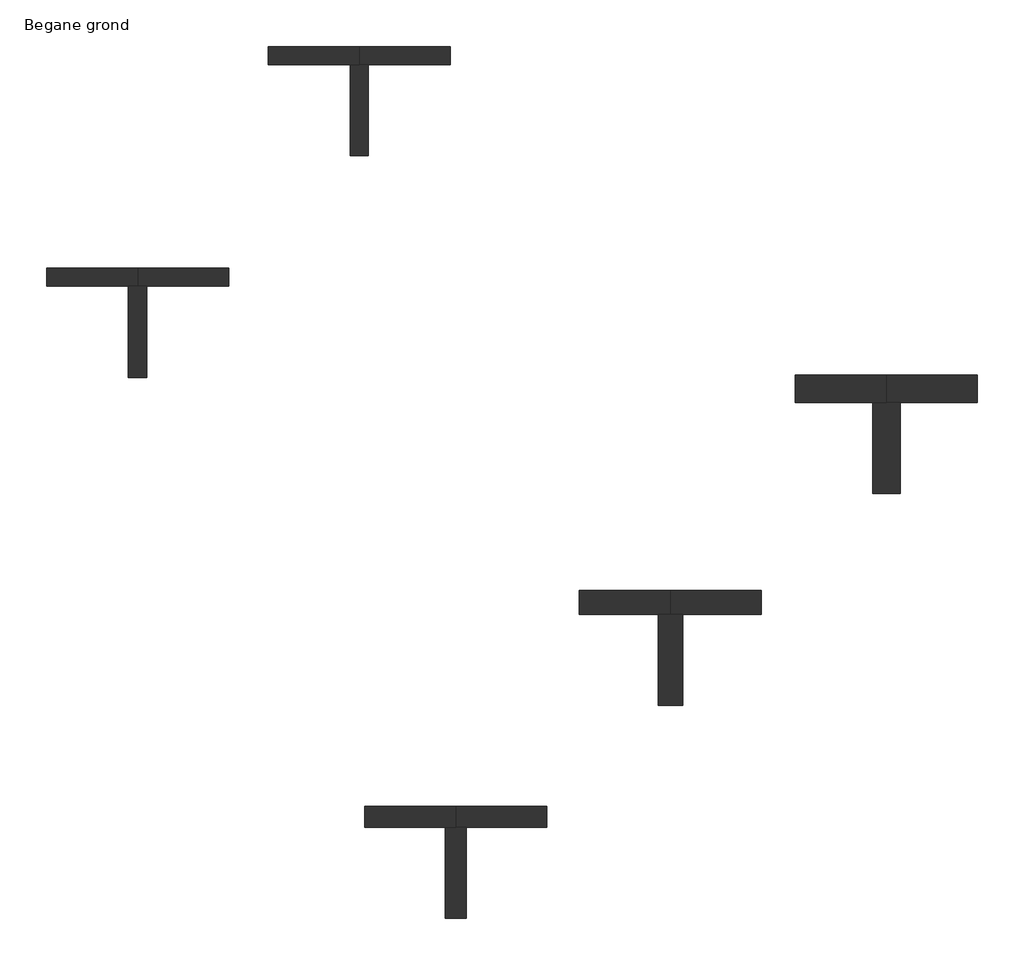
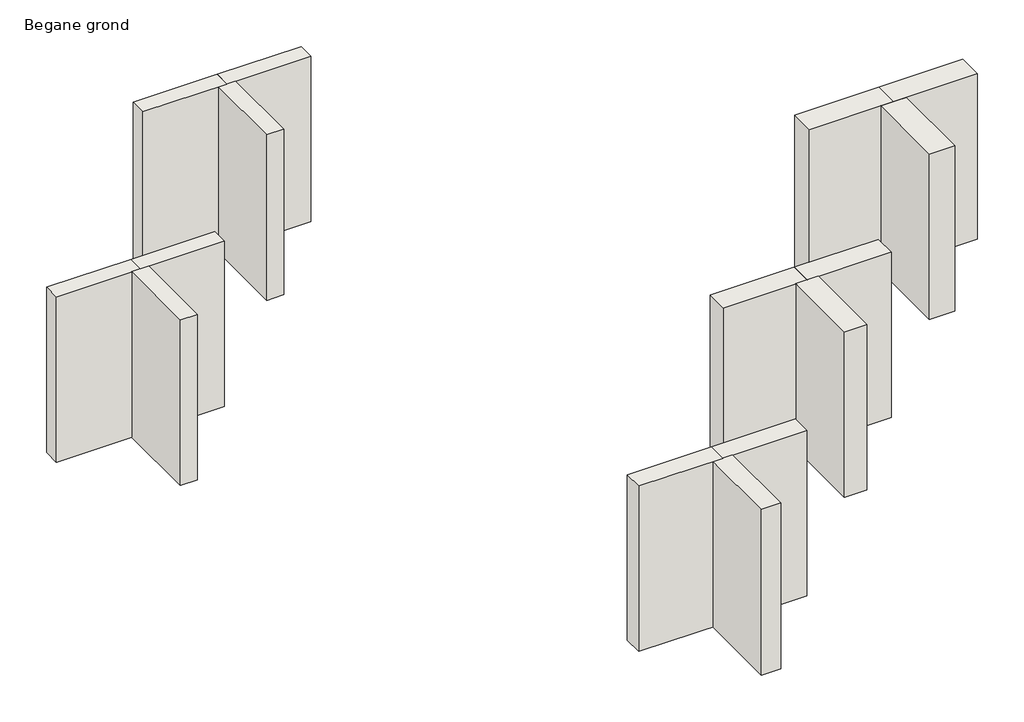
# One storey: 15 walls.
"""IFC4 building model written with IfcOpenShell, lengths in millimetres."""

from ifc_helpers import new_model, si_unit, origin, origin_with_axes, place, context, project, spatial, polyline, outline, extrude, element, save

model = new_model("IFC4")

# Units and contexts
model_context = context("Model", 3, world=origin())
ifc_project = project(units=[si_unit("LENGTHUNIT", "METRE", prefix="MILLI")], contexts=[model_context])

# Site, building, storey
site = spatial("IfcSite", under=ifc_project)
building = spatial("IfcBuilding", under=site)
storey = spatial("IfcBuildingStorey", under=building, Name="Begane grond", Elevation=0.0)

# Walls
placement = place(None, origin())
element("IfcWall", 1, ObjectType="NLRS_21_WA_SmartCavity 031_100x600x1250mm", at=placement, inside=storey, context=model_context, shape_type="SweptSolid", body=[
    extrude(outline(polyline([(3894.3799142, 6088.2438986), (3294.3799142, 6088.2438986), (3294.3799142, 6208.2438986), (3894.3799142, 6208.2438986), (3894.3799142, 6088.2438986)])), origin_with_axes(), (0.0, 0.0, 1.0), 1250.0),
])
element("IfcWall", 2, ObjectType="NLRS_21_WA_SmartCavity 031_100x600x1250mm", at=placement, inside=storey, context=model_context, shape_type="SweptSolid", body=[
    extrude(outline(polyline([(3834.3799142, 5488.2438986), (3834.3799142, 6088.2438986), (3954.3799142, 6088.2438986), (3954.3799142, 5488.2438986), (3834.3799142, 5488.2438986)])), origin_with_axes(), (0.0, 0.0, 1.0), 1250.0),
])
element("IfcWall", 3, ObjectType="NLRS_21_WA_SmartCavity 031_100x600x1250mm", at=placement, inside=storey, context=model_context, shape_type="SweptSolid", body=[
    extrude(outline(polyline([(4494.3799142, 6088.2438986), (3894.3799142, 6088.2438986), (3894.3799142, 6208.2438986), (4494.3799142, 6208.2438986), (4494.3799142, 6088.2438986)])), origin_with_axes(), (0.0, 0.0, 1.0), 1250.0),
])
element("IfcWall", 4, ObjectType="NLRS_21_WA_SmartCavity 031_120x600x1250mm", at=placement, inside=storey, context=model_context, shape_type="SweptSolid", body=[
    extrude(outline(polyline([(5356.1090496, 7549.973034), (4756.1090496, 7549.973034), (4756.1090496, 7669.973034), (5356.1090496, 7669.973034), (5356.1090496, 7549.973034)])), origin_with_axes(), (0.0, 0.0, 1.0), 1250.0),
])
element("IfcWall", 5, ObjectType="NLRS_21_WA_SmartCavity 031_120x600x1250mm", at=placement, inside=storey, context=model_context, shape_type="SweptSolid", body=[
    extrude(outline(polyline([(5296.1090496, 6949.973034), (5296.1090496, 7549.973034), (5416.1090496, 7549.973034), (5416.1090496, 6949.973034), (5296.1090496, 6949.973034)])), origin_with_axes(), (0.0, 0.0, 1.0), 1250.0),
])
element("IfcWall", 6, ObjectType="NLRS_21_WA_SmartCavity 031_120x600x1250mm", at=placement, inside=storey, context=model_context, shape_type="SweptSolid", body=[
    extrude(outline(polyline([(5956.1090496, 7549.973034), (5356.1090496, 7549.973034), (5356.1090496, 7669.973034), (5956.1090496, 7669.973034), (5956.1090496, 7549.973034)])), origin_with_axes(), (0.0, 0.0, 1.0), 1250.0),
])
element("IfcWall", 7, ObjectType="NLRS_21_WA_SmartCavity 031_140x600x1250mm", at=placement, inside=storey, context=model_context, shape_type="SweptSolid", body=[
    extrude(outline(polyline([(5992.5051527, 2519.5148876), (5392.5051527, 2519.5148876), (5392.5051527, 2659.5148876), (5992.5051527, 2659.5148876), (5992.5051527, 2519.5148876)])), origin_with_axes(), (0.0, 0.0, 1.0), 1250.0),
])
element("IfcWall", 8, ObjectType="NLRS_21_WA_SmartCavity 031_140x600x1250mm", at=placement, inside=storey, context=model_context, shape_type="SweptSolid", body=[
    extrude(outline(polyline([(5922.5051527, 1919.5148876), (5922.5051527, 2519.5148876), (6062.5051527, 2519.5148876), (6062.5051527, 1919.5148876), (5922.5051527, 1919.5148876)])), origin_with_axes(), (0.0, 0.0, 1.0), 1250.0),
])
element("IfcWall", 9, ObjectType="NLRS_21_WA_SmartCavity 031_140x600x1250mm", at=placement, inside=storey, context=model_context, shape_type="SweptSolid", body=[
    extrude(outline(polyline([(6592.5051527, 2519.5148876), (5992.5051527, 2519.5148876), (5992.5051527, 2659.5148876), (6592.5051527, 2659.5148876), (6592.5051527, 2519.5148876)])), origin_with_axes(), (0.0, 0.0, 1.0), 1250.0),
])
element("IfcWall", 10, ObjectType="NLRS_21_WA_SmartCavity 031_160x600x1250mm", at=placement, inside=storey, context=model_context, shape_type="SweptSolid", body=[
    extrude(outline(polyline([(7406.718715, 3923.72845), (6806.718715, 3923.72845), (6806.718715, 4083.72845), (7406.718715, 4083.72845), (7406.718715, 3923.72845)])), origin_with_axes(), (0.0, 0.0, 1.0), 1250.0),
])
element("IfcWall", 11, ObjectType="NLRS_21_WA_SmartCavity 031_160x600x1250mm", at=placement, inside=storey, context=model_context, shape_type="SweptSolid", body=[
    extrude(outline(polyline([(7326.718715, 3323.72845), (7326.718715, 3923.72845), (7486.718715, 3923.72845), (7486.718715, 3323.72845), (7326.718715, 3323.72845)])), origin_with_axes(), (0.0, 0.0, 1.0), 1250.0),
])
element("IfcWall", 12, ObjectType="NLRS_21_WA_SmartCavity 031_160x600x1250mm", at=placement, inside=storey, context=model_context, shape_type="SweptSolid", body=[
    extrude(outline(polyline([(8006.718715, 3923.72845), (7406.718715, 3923.72845), (7406.718715, 4083.72845), (8006.718715, 4083.72845), (8006.718715, 3923.72845)])), origin_with_axes(), (0.0, 0.0, 1.0), 1250.0),
])
element("IfcWall", 13, ObjectType="NLRS_21_WA_SmartCavity 031_180x600x1250mm", at=placement, inside=storey, context=model_context, shape_type="SweptSolid", body=[
    extrude(outline(polyline([(8830.9322774, 5322.9420124), (8230.9322774, 5322.9420124), (8230.9322774, 5502.9420124), (8830.9322774, 5502.9420124), (8830.9322774, 5322.9420124)])), origin_with_axes(), (0.0, 0.0, 1.0), 1250.0),
])
element("IfcWall", 14, ObjectType="NLRS_21_WA_SmartCavity 031_180x600x1250mm", at=placement, inside=storey, context=model_context, shape_type="SweptSolid", body=[
    extrude(outline(polyline([(8740.9322774, 4722.9420124), (8740.9322774, 5322.9420124), (8920.9322774, 5322.9420124), (8920.9322774, 4722.9420124), (8740.9322774, 4722.9420124)])), origin_with_axes(), (0.0, 0.0, 1.0), 1250.0),
])
element("IfcWall", 15, ObjectType="NLRS_21_WA_SmartCavity 031_180x600x1250mm", at=placement, inside=storey, context=model_context, shape_type="SweptSolid", body=[
    extrude(outline(polyline([(9430.9322774, 5322.9420124), (8830.9322774, 5322.9420124), (8830.9322774, 5502.9420124), (9430.9322774, 5502.9420124), (9430.9322774, 5322.9420124)])), origin_with_axes(), (0.0, 0.0, 1.0), 1250.0),
])

save(model, "model.ifc")
